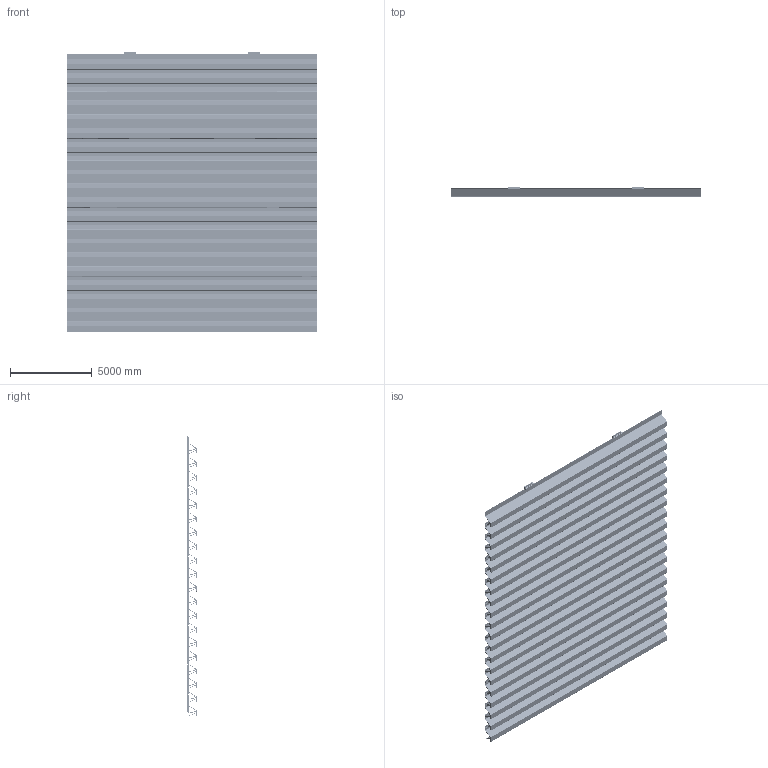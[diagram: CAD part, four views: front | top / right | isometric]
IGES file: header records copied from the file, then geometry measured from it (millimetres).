
Global section: file name: 3D_L_033IM1; native system: AutoCAD 2023 - English; preprocessor: Autodesk Translation Framework DWG producer (atf_dwg_producer); organization: unknown; date: 20260202.112438; units: inch
Bounding box: 15290.8 x 568.96 x 17166.9 mm (x, y, z)
Volume: 16289876134.6 mm3; surface area: 1112404147.8 mm2
Topology: 20 solids, 20 shells, 13460 faces, 40860 edges, 27160 vertices
Faces by surface type: bspline 13460
